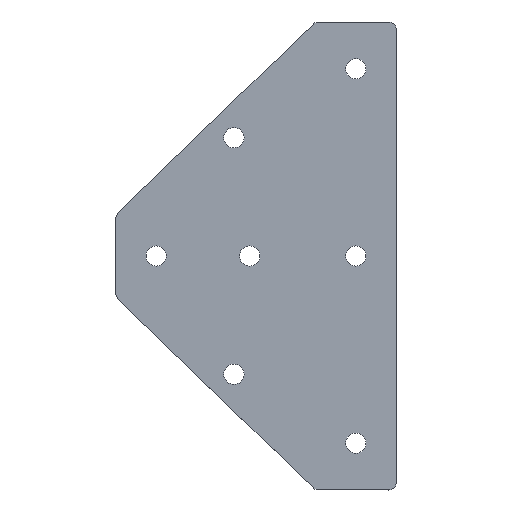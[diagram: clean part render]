
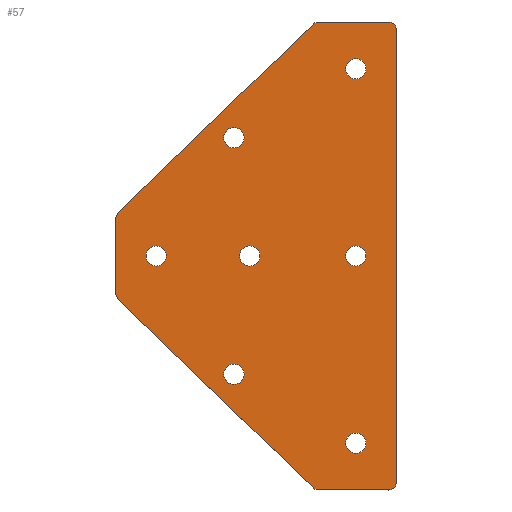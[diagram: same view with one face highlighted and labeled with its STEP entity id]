
A CAD part, top view. The second image highlights one B-rep face of the part: STEP entity #57.
In plain terms, the highlighted planar face has unit normal (0, 0, 1).
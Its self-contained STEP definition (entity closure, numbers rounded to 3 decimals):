
#57=ADVANCED_FACE('',(#258,#260,#262,#264,#266,#268,#270,#272),#274,.T.);
#258=FACE_BOUND('',#259,.T.);
#259=EDGE_LOOP('',(#445,#446,#447,#448,#449,#450,#451,#452,#453,#454,#455,#456));
#260=FACE_BOUND('',#261,.T.);
#261=EDGE_LOOP('',(#457));
#262=FACE_BOUND('',#263,.T.);
#263=EDGE_LOOP('',(#458));
#264=FACE_BOUND('',#265,.T.);
#265=EDGE_LOOP('',(#459));
#266=FACE_BOUND('',#267,.T.);
#267=EDGE_LOOP('',(#460));
#268=FACE_BOUND('',#269,.T.);
#269=EDGE_LOOP('',(#461));
#270=FACE_BOUND('',#271,.T.);
#271=EDGE_LOOP('',(#462));
#272=FACE_BOUND('',#273,.T.);
#273=EDGE_LOOP('',(#463));
#274=PLANE('',#275);
#275=AXIS2_PLACEMENT_3D('',#276,#277,#278);
#276=CARTESIAN_POINT('',(0.,0.,3.));
#277=DIRECTION('',(0.,0.,1.));
#278=DIRECTION('',(-1.,0.,0.));
#445=ORIENTED_EDGE('',*,*,#545,.T.);
#446=ORIENTED_EDGE('',*,*,#546,.T.);
#447=ORIENTED_EDGE('',*,*,#547,.T.);
#448=ORIENTED_EDGE('',*,*,#548,.T.);
#449=ORIENTED_EDGE('',*,*,#549,.T.);
#450=ORIENTED_EDGE('',*,*,#550,.T.);
#451=ORIENTED_EDGE('',*,*,#551,.T.);
#452=ORIENTED_EDGE('',*,*,#552,.T.);
#453=ORIENTED_EDGE('',*,*,#553,.T.);
#454=ORIENTED_EDGE('',*,*,#554,.T.);
#455=ORIENTED_EDGE('',*,*,#555,.T.);
#456=ORIENTED_EDGE('',*,*,#556,.T.);
#457=ORIENTED_EDGE('',*,*,#557,.T.);
#458=ORIENTED_EDGE('',*,*,#558,.T.);
#459=ORIENTED_EDGE('',*,*,#559,.T.);
#460=ORIENTED_EDGE('',*,*,#560,.T.);
#461=ORIENTED_EDGE('',*,*,#561,.T.);
#462=ORIENTED_EDGE('',*,*,#562,.T.);
#463=ORIENTED_EDGE('',*,*,#563,.T.);
#545=EDGE_CURVE('',#614,#615,#616,.T.);
#546=EDGE_CURVE('',#615,#617,#618,.T.);
#547=EDGE_CURVE('',#617,#619,#620,.T.);
#548=EDGE_CURVE('',#619,#621,#622,.T.);
#549=EDGE_CURVE('',#621,#623,#624,.T.);
#550=EDGE_CURVE('',#623,#625,#626,.T.);
#551=EDGE_CURVE('',#625,#627,#628,.T.);
#552=EDGE_CURVE('',#627,#629,#630,.T.);
#553=EDGE_CURVE('',#629,#631,#632,.T.);
#554=EDGE_CURVE('',#631,#633,#634,.T.);
#555=EDGE_CURVE('',#633,#635,#636,.T.);
#556=EDGE_CURVE('',#635,#614,#637,.T.);
#557=EDGE_CURVE('',#638,#638,#639,.F.);
#558=EDGE_CURVE('',#640,#640,#641,.F.);
#559=EDGE_CURVE('',#642,#642,#643,.F.);
#560=EDGE_CURVE('',#644,#644,#645,.F.);
#561=EDGE_CURVE('',#646,#646,#647,.F.);
#562=EDGE_CURVE('',#648,#648,#649,.F.);
#563=EDGE_CURVE('',#650,#650,#651,.F.);
#614=VERTEX_POINT('',#753);
#615=VERTEX_POINT('',#754);
#616=CIRCLE('',#755,2.5);
#617=VERTEX_POINT('',#759);
#618=LINE('',#760,#761);
#619=VERTEX_POINT('',#763);
#620=CIRCLE('',#764,2.5);
#621=VERTEX_POINT('',#768);
#622=LINE('',#769,#770);
#623=VERTEX_POINT('',#772);
#624=CIRCLE('',#773,2.5);
#625=VERTEX_POINT('',#777);
#626=LINE('',#778,#779);
#627=VERTEX_POINT('',#781);
#628=CIRCLE('',#782,2.5);
#629=VERTEX_POINT('',#786);
#630=LINE('',#787,#788);
#631=VERTEX_POINT('',#790);
#632=CIRCLE('',#791,2.5);
#633=VERTEX_POINT('',#795);
#634=LINE('',#796,#797);
#635=VERTEX_POINT('',#799);
#636=CIRCLE('',#800,2.5);
#637=LINE('',#804,#805);
#638=VERTEX_POINT('',#807);
#639=CIRCLE('',#808,3.25);
#640=VERTEX_POINT('',#812);
#641=CIRCLE('',#813,3.25);
#642=VERTEX_POINT('',#817);
#643=CIRCLE('',#818,3.25);
#644=VERTEX_POINT('',#822);
#645=CIRCLE('',#823,3.25);
#646=VERTEX_POINT('',#827);
#647=CIRCLE('',#828,3.25);
#648=VERTEX_POINT('',#832);
#649=CIRCLE('',#833,3.25);
#650=VERTEX_POINT('',#837);
#651=CIRCLE('',#838,3.25);
#753=CARTESIAN_POINT('',(-2.5,-75.,3.));
#754=CARTESIAN_POINT('',(0.,-72.5,3.));
#755=AXIS2_PLACEMENT_3D('',#756,#757,#758);
#756=CARTESIAN_POINT('',(-2.5,-72.5,3.));
#757=DIRECTION('',(0.,0.,1.));
#758=DIRECTION('',(0.,-1.,0.));
#759=CARTESIAN_POINT('',(0.,72.5,3.));
#760=CARTESIAN_POINT('',(0.,-72.5,3.));
#761=VECTOR('',#762,1.);
#762=DIRECTION('',(0.,1.,0.));
#763=CARTESIAN_POINT('',(-2.5,75.,3.));
#764=AXIS2_PLACEMENT_3D('',#765,#766,#767);
#765=CARTESIAN_POINT('',(-2.5,72.5,3.));
#766=DIRECTION('',(0.,0.,1.));
#767=DIRECTION('',(1.,0.,0.));
#768=CARTESIAN_POINT('',(-24.988,75.,3.));
#769=CARTESIAN_POINT('',(-2.5,75.,3.));
#770=VECTOR('',#771,1.);
#771=DIRECTION('',(-1.,0.,0.));
#772=CARTESIAN_POINT('',(-26.727,74.296,3.));
#773=AXIS2_PLACEMENT_3D('',#774,#775,#776);
#774=CARTESIAN_POINT('',(-24.988,72.5,3.));
#775=DIRECTION('',(0.,0.,1.));
#776=DIRECTION('',(0.,1.,0.));
#777=CARTESIAN_POINT('',(-89.239,13.737,3.));
#778=CARTESIAN_POINT('',(-26.727,74.296,3.));
#779=VECTOR('',#780,1.);
#780=DIRECTION('',(-0.718,-0.696,0.));
#781=CARTESIAN_POINT('',(-90.,11.941,3.));
#782=AXIS2_PLACEMENT_3D('',#783,#784,#785);
#783=CARTESIAN_POINT('',(-87.5,11.941,3.));
#784=DIRECTION('',(0.,0.,1.));
#785=DIRECTION('',(-0.696,0.718,0.));
#786=CARTESIAN_POINT('',(-90.,-11.941,3.));
#787=CARTESIAN_POINT('',(-90.,11.941,3.));
#788=VECTOR('',#789,1.);
#789=DIRECTION('',(0.,-1.,0.));
#790=CARTESIAN_POINT('',(-89.239,-13.737,3.));
#791=AXIS2_PLACEMENT_3D('',#792,#793,#794);
#792=CARTESIAN_POINT('',(-87.5,-11.941,3.));
#793=DIRECTION('',(0.,0.,1.));
#794=DIRECTION('',(-1.,0.,0.));
#795=CARTESIAN_POINT('',(-26.727,-74.296,3.));
#796=CARTESIAN_POINT('',(-89.239,-13.737,3.));
#797=VECTOR('',#798,1.);
#798=DIRECTION('',(0.718,-0.696,0.));
#799=CARTESIAN_POINT('',(-24.988,-75.,3.));
#800=AXIS2_PLACEMENT_3D('',#801,#802,#803);
#801=CARTESIAN_POINT('',(-24.988,-72.5,3.));
#802=DIRECTION('',(0.,0.,1.));
#803=DIRECTION('',(-0.696,-0.718,0.));
#804=CARTESIAN_POINT('',(-24.988,-75.,3.));
#805=VECTOR('',#806,1.);
#806=DIRECTION('',(1.,0.,0.));
#807=CARTESIAN_POINT('',(-55.319,37.911,3.));
#808=AXIS2_PLACEMENT_3D('',#809,#810,#811);
#809=CARTESIAN_POINT('',(-52.069,37.911,3.));
#810=DIRECTION('',(0.,0.,1.));
#811=DIRECTION('',(-1.,0.,0.));
#812=CARTESIAN_POINT('',(-55.319,-37.911,3.));
#813=AXIS2_PLACEMENT_3D('',#814,#815,#816);
#814=CARTESIAN_POINT('',(-52.069,-37.911,3.));
#815=DIRECTION('',(0.,0.,1.));
#816=DIRECTION('',(-1.,0.,0.));
#817=CARTESIAN_POINT('',(-77.,-3.25,3.));
#818=AXIS2_PLACEMENT_3D('',#819,#820,#821);
#819=CARTESIAN_POINT('',(-77.,0.,3.));
#820=DIRECTION('',(0.,0.,1.));
#821=DIRECTION('',(0.,-1.,0.));
#822=CARTESIAN_POINT('',(-13.,-63.25,3.));
#823=AXIS2_PLACEMENT_3D('',#824,#825,#826);
#824=CARTESIAN_POINT('',(-13.,-60.,3.));
#825=DIRECTION('',(0.,0.,1.));
#826=DIRECTION('',(0.,-1.,0.));
#827=CARTESIAN_POINT('',(-13.,56.75,3.));
#828=AXIS2_PLACEMENT_3D('',#829,#830,#831);
#829=CARTESIAN_POINT('',(-13.,60.,3.));
#830=DIRECTION('',(0.,0.,1.));
#831=DIRECTION('',(0.,-1.,0.));
#832=CARTESIAN_POINT('',(-13.,-3.25,3.));
#833=AXIS2_PLACEMENT_3D('',#834,#835,#836);
#834=CARTESIAN_POINT('',(-13.,0.,3.));
#835=DIRECTION('',(0.,0.,1.));
#836=DIRECTION('',(0.,-1.,0.));
#837=CARTESIAN_POINT('',(-47.,-3.25,3.));
#838=AXIS2_PLACEMENT_3D('',#839,#840,#841);
#839=CARTESIAN_POINT('',(-47.,0.,3.));
#840=DIRECTION('',(0.,0.,1.));
#841=DIRECTION('',(0.,-1.,0.));
